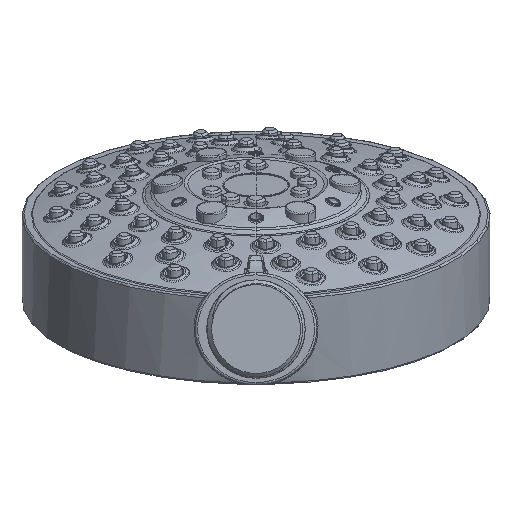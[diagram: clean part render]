
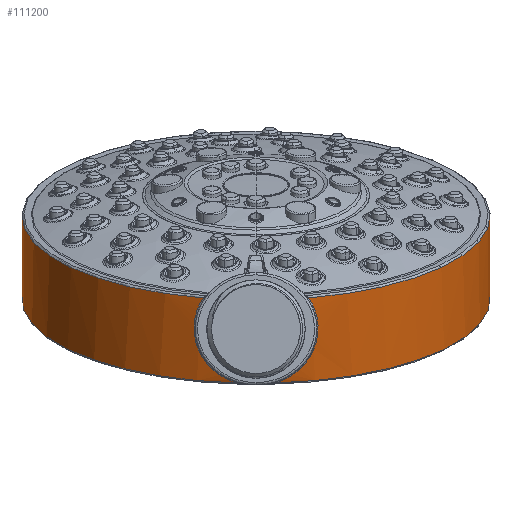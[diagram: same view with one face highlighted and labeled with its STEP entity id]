
A CAD part, front view. The second image highlights one B-rep face of the part: STEP entity #111200.
In plain terms, the highlighted cylindrical face has radius 50 mm (diameter 100 mm), a partial arc.
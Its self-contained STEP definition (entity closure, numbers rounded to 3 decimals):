
#110072=CARTESIAN_POINT('',(-11.304,122.044,
6.645));
#110074=CARTESIAN_POINT('',(11.304,122.044,
6.645));
#110089=CARTESIAN_POINT('',(4.204,127.819,
-11.518));
#110108=CARTESIAN_POINT('',(4.204,127.819,
-11.518));
#110109=CARTESIAN_POINT('',(5.141,127.789,
-11.217));
#110110=CARTESIAN_POINT('',(6.87,127.718,
-10.481));
#110111=CARTESIAN_POINT('',(9.064,127.509,
-8.927));
#110112=CARTESIAN_POINT('',(10.763,127.202,
-7.156));
#110113=CARTESIAN_POINT('',(12.133,126.718,
-4.984));
#110114=CARTESIAN_POINT('',(12.976,126.083,
-2.712));
#110115=CARTESIAN_POINT('',(13.33,125.237,
-0.236));
#110116=CARTESIAN_POINT('',(13.191,124.341,
1.992));
#110117=CARTESIAN_POINT('',(12.572,123.244,
4.382));
#110118=CARTESIAN_POINT('',(11.787,122.453,
5.892));
#110119=CARTESIAN_POINT('',(11.304,122.044,
6.645));
#110121=CARTESIAN_POINT('',(0.,167.515,24.1));
#110122=DIRECTION('',(0.,-0.358,0.934));
#110123=DIRECTION('',(0.226,-0.909,-0.349));
#110124=AXIS2_PLACEMENT_3D('',#110121,#110122,#110123);
#110126=CARTESIAN_POINT('',(0.,167.515,24.1));
#110127=DIRECTION('',(0.,-0.358,0.934));
#110128=DIRECTION('',(0.,0.934,0.358));
#110129=AXIS2_PLACEMENT_3D('',#110126,#110127,#110128);
#110131=CARTESIAN_POINT('',(0.,167.515,24.1));
#110132=DIRECTION('',(0.,-0.358,0.934));
#110133=DIRECTION('',(-0.009,0.934,0.358));
#110134=AXIS2_PLACEMENT_3D('',#110131,#110132,#110133);
#110136=CARTESIAN_POINT('',(-4.204,127.819,
-11.518));
#110137=CARTESIAN_POINT('',(-5.122,127.79,
-11.225));
#110138=CARTESIAN_POINT('',(-6.825,127.721,
-10.503));
#110139=CARTESIAN_POINT('',(-9.03,127.513,
-8.958));
#110140=CARTESIAN_POINT('',(-10.749,127.206,
-7.177));
#110141=CARTESIAN_POINT('',(-12.142,126.716,
-4.973));
#110142=CARTESIAN_POINT('',(-12.992,126.067,
-2.657));
#110143=CARTESIAN_POINT('',(-13.334,125.209,
-0.16));
#110144=CARTESIAN_POINT('',(-13.177,124.302,
2.082));
#110145=CARTESIAN_POINT('',(-12.542,123.21,
4.448));
#110146=CARTESIAN_POINT('',(-11.774,122.44,
5.919));
#110147=CARTESIAN_POINT('',(-11.304,122.044,
6.645));
#110509=CARTESIAN_POINT('',(0.,174.333,6.337));
#110510=DIRECTION('',(0.,-0.358,0.934));
#110511=DIRECTION('',(0.084,-0.93,-0.357));
#110512=AXIS2_PLACEMENT_3D('',#110509,#110510,#110511);
#110514=CARTESIAN_POINT('',(0.,174.333,6.337));
#110515=DIRECTION('',(0.,-0.358,0.934));
#110516=DIRECTION('',(0.,0.934,0.358));
#110517=AXIS2_PLACEMENT_3D('',#110514,#110515,#110516);
#110761=VERTEX_POINT('',#110072);
#110762=VERTEX_POINT('',#110074);
#110766=VERTEX_POINT('',#110089);
#110767=CARTESIAN_POINT('',(-0.443,214.192,
42.018));
#110768=VERTEX_POINT('',#110767);
#110769=CARTESIAN_POINT('',(0.,214.194,42.018));
#110770=VERTEX_POINT('',#110769);
#110771=VERTEX_POINT('',#110136);
#110772=CARTESIAN_POINT('',(0.,221.012,24.256));
#110773=VERTEX_POINT('',#110772);
#111183=CARTESIAN_POINT('',(0.,174.469,5.982));
#111184=DIRECTION('',(0.,-0.358,0.934));
#111185=DIRECTION('',(0.,0.934,0.358));
#111186=AXIS2_PLACEMENT_3D('',#111183,#111184,#111185);
#111187=CYLINDRICAL_SURFACE('',#111186,50.);
#111188=ORIENTED_EDGE('',*,*,#111166,.T.);
#111189=ORIENTED_EDGE('',*,*,#110860,.T.);
#111190=ORIENTED_EDGE('',*,*,#110858,.T.);
#111191=ORIENTED_EDGE('',*,*,#110856,.T.);
#111193=ORIENTED_EDGE('',*,*,#111192,.F.);
#111195=ORIENTED_EDGE('',*,*,#111194,.F.);
#111197=ORIENTED_EDGE('',*,*,#111196,.F.);
#111198=EDGE_LOOP('',(#111188,#111189,#111190,#111191,#111193,#111195,#111197));
#111199=FACE_OUTER_BOUND('',#111198,.F.);
#110120=B_SPLINE_CURVE_WITH_KNOTS('',3,(#110108,#110109,#110110,#110111,#110112,
#110113,#110114,#110115,#110116,#110117,#110118,#110119),.UNSPECIFIED.,.F.,.F.,(
4,1,1,1,1,1,1,1,1,4),(0.,0.111,0.222,
0.333,0.444,0.556,0.667,
0.778,0.889,1.),.UNSPECIFIED.);
#110125=CIRCLE('',#110124,50.);
#110130=CIRCLE('',#110129,50.);
#110135=CIRCLE('',#110134,50.);
#110148=B_SPLINE_CURVE_WITH_KNOTS('',3,(#110136,#110137,#110138,#110139,#110140,
#110141,#110142,#110143,#110144,#110145,#110146,#110147),.UNSPECIFIED.,.F.,.F.,(
4,1,1,1,1,1,1,1,1,4),(0.,0.111,0.222,
0.333,0.444,0.556,0.667,
0.778,0.889,1.),.UNSPECIFIED.);
#110513=CIRCLE('',#110512,50.);
#110518=CIRCLE('',#110517,50.);
#110856=EDGE_CURVE('',#110768,#110761,#110135,.T.);
#110858=EDGE_CURVE('',#110770,#110768,#110130,.T.);
#110860=EDGE_CURVE('',#110762,#110770,#110125,.T.);
#111166=EDGE_CURVE('',#110766,#110762,#110120,.T.);
#111192=EDGE_CURVE('',#110771,#110761,#110148,.T.);
#111194=EDGE_CURVE('',#110773,#110771,#110518,.T.);
#111196=EDGE_CURVE('',#110766,#110773,#110513,.T.);
#111200=ADVANCED_FACE('',(#111199),#111187,.T.);
